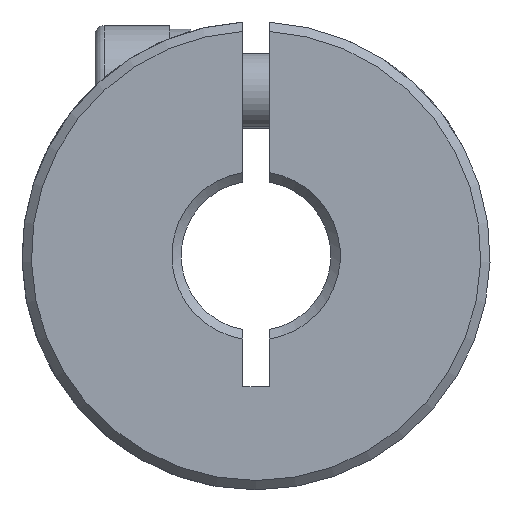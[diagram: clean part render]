
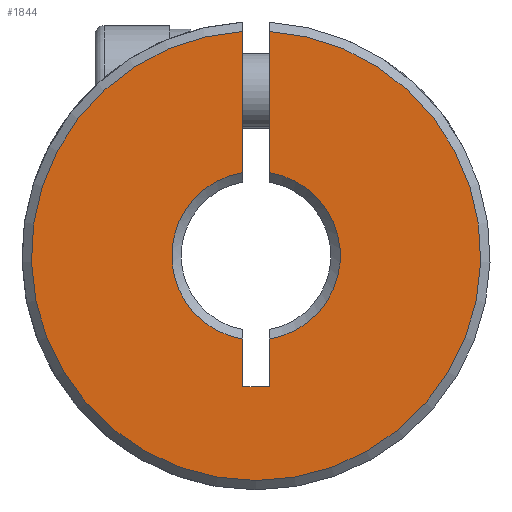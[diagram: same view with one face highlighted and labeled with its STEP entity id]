
A CAD part, front view. The second image highlights one B-rep face of the part: STEP entity #1844.
In plain terms, the highlighted planar face has unit normal (0, -1, 0).
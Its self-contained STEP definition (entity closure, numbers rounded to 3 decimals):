
#32 = PLANE ( 'NONE',  #335 ) ;
#50 = CARTESIAN_POINT ( 'NONE',  ( 12.5, 0.25, -50. ) ) ;
#70 = EDGE_CURVE ( 'NONE', #2568, #2740, #1611, .T. ) ;
#204 = CARTESIAN_POINT ( 'NONE',  ( 0.7, 0.25, -7. ) ) ;
#207 = DIRECTION ( 'NONE',  ( 0., 0., 1. ) ) ;
#208 = CARTESIAN_POINT ( 'NONE',  ( 0.7, 0.25, 4.445 ) ) ;
#251 = VERTEX_POINT ( 'NONE', #2015 ) ;
#277 = DIRECTION ( 'NONE',  ( 0., -1., 0. ) ) ;
#334 = VECTOR ( 'NONE', #3204, 1000. ) ;
#335 = AXIS2_PLACEMENT_3D ( 'NONE', #50, #2174, #1103 ) ;
#543 = DIRECTION ( 'NONE',  ( 0., 0., 1. ) ) ;
#575 = VECTOR ( 'NONE', #2810, 1000. ) ;
#577 = CARTESIAN_POINT ( 'NONE',  ( 0., 0.25, 0. ) ) ;
#590 = CARTESIAN_POINT ( 'NONE',  ( -0.7, 0.25, -7. ) ) ;
#602 = EDGE_CURVE ( 'NONE', #2818, #251, #2024, .T. ) ;
#613 = DIRECTION ( 'NONE',  ( 0., 0., 1. ) ) ;
#665 = CIRCLE ( 'NONE', #3286, 4.5 ) ;
#701 = ORIENTED_EDGE ( 'NONE', *, *, #2111, .F. ) ;
#748 = ORIENTED_EDGE ( 'NONE', *, *, #2269, .F. ) ;
#752 = CARTESIAN_POINT ( 'NONE',  ( -0.7, 0.25, -4.445 ) ) ;
#761 = AXIS2_PLACEMENT_3D ( 'NONE', #577, #2434, #613 ) ;
#767 = VERTEX_POINT ( 'NONE', #1668 ) ;
#1048 = CARTESIAN_POINT ( 'NONE',  ( 0.7, 0.25, -7. ) ) ;
#1095 = LINE ( 'NONE', #1048, #3046 ) ;
#1103 = DIRECTION ( 'NONE',  ( 0., 0., 1. ) ) ;
#1144 = EDGE_CURVE ( 'NONE', #2486, #2733, #665, .T. ) ;
#1236 = ORIENTED_EDGE ( 'NONE', *, *, #70, .T. ) ;
#1254 = EDGE_LOOP ( 'NONE', ( #748, #1236, #701, #2492, #2503, #3215, #2031, #1498 ) ) ;
#1302 = LINE ( 'NONE', #2150, #334 ) ;
#1372 = DIRECTION ( 'NONE',  ( 0., 0., -1. ) ) ;
#1380 = CARTESIAN_POINT ( 'NONE',  ( 0., 0.25, 0. ) ) ;
#1406 = CARTESIAN_POINT ( 'NONE',  ( 0.7, 0.25, -4.445 ) ) ;
#1498 = ORIENTED_EDGE ( 'NONE', *, *, #602, .T. ) ;
#1611 = CIRCLE ( 'NONE', #761, 4.5 ) ;
#1663 = LINE ( 'NONE', #590, #3354 ) ;
#1668 = CARTESIAN_POINT ( 'NONE',  ( -0.7, 0.25, -7. ) ) ;
#1741 = EDGE_CURVE ( 'NONE', #767, #2695, #1302, .T. ) ;
#1744 = LINE ( 'NONE', #204, #575 ) ;
#1844 = ADVANCED_FACE ( 'NONE', ( #2448 ), #32, .F. ) ;
#1873 = EDGE_CURVE ( 'NONE', #2818, #2733, #1663, .T. ) ;
#1931 = CARTESIAN_POINT ( 'NONE',  ( 0., 0.25, 0. ) ) ;
#2015 = CARTESIAN_POINT ( 'NONE',  ( 0.7, 0.25, 11.98 ) ) ;
#2024 = CIRCLE ( 'NONE', #2121, 12. ) ;
#2031 = ORIENTED_EDGE ( 'NONE', *, *, #1873, .F. ) ;
#2075 = LINE ( 'NONE', #3197, #2316 ) ;
#2111 = EDGE_CURVE ( 'NONE', #2695, #2740, #1744, .T. ) ;
#2121 = AXIS2_PLACEMENT_3D ( 'NONE', #1380, #277, #543 ) ;
#2150 = CARTESIAN_POINT ( 'NONE',  ( 0.7, 0.25, -7. ) ) ;
#2174 = DIRECTION ( 'NONE',  ( 0., 1., 0. ) ) ;
#2269 = EDGE_CURVE ( 'NONE', #2568, #251, #1095, .T. ) ;
#2316 = VECTOR ( 'NONE', #1372, 1000. ) ;
#2434 = DIRECTION ( 'NONE',  ( 0., 1., 0. ) ) ;
#2448 = FACE_OUTER_BOUND ( 'NONE', #1254, .T. ) ;
#2449 = CARTESIAN_POINT ( 'NONE',  ( -0.7, 0.25, 11.98 ) ) ;
#2486 = VERTEX_POINT ( 'NONE', #752 ) ;
#2492 = ORIENTED_EDGE ( 'NONE', *, *, #1741, .F. ) ;
#2503 = ORIENTED_EDGE ( 'NONE', *, *, #3306, .F. ) ;
#2568 = VERTEX_POINT ( 'NONE', #208 ) ;
#2695 = VERTEX_POINT ( 'NONE', #3193 ) ;
#2724 = CARTESIAN_POINT ( 'NONE',  ( -0.7, 0.25, 4.445 ) ) ;
#2725 = DIRECTION ( 'NONE',  ( 0., 0., -1. ) ) ;
#2733 = VERTEX_POINT ( 'NONE', #2724 ) ;
#2740 = VERTEX_POINT ( 'NONE', #1406 ) ;
#2810 = DIRECTION ( 'NONE',  ( 0., 0., 1. ) ) ;
#2818 = VERTEX_POINT ( 'NONE', #2449 ) ;
#3040 = DIRECTION ( 'NONE',  ( 0., 1., 0. ) ) ;
#3046 = VECTOR ( 'NONE', #207, 1000. ) ;
#3053 = DIRECTION ( 'NONE',  ( 0., 0., 1. ) ) ;
#3193 = CARTESIAN_POINT ( 'NONE',  ( 0.7, 0.25, -7. ) ) ;
#3197 = CARTESIAN_POINT ( 'NONE',  ( -0.7, 0.25, -7. ) ) ;
#3204 = DIRECTION ( 'NONE',  ( 1., 0., 0. ) ) ;
#3215 = ORIENTED_EDGE ( 'NONE', *, *, #1144, .T. ) ;
#3286 = AXIS2_PLACEMENT_3D ( 'NONE', #1931, #3040, #3053 ) ;
#3306 = EDGE_CURVE ( 'NONE', #2486, #767, #2075, .T. ) ;
#3354 = VECTOR ( 'NONE', #2725, 1000. ) ;
